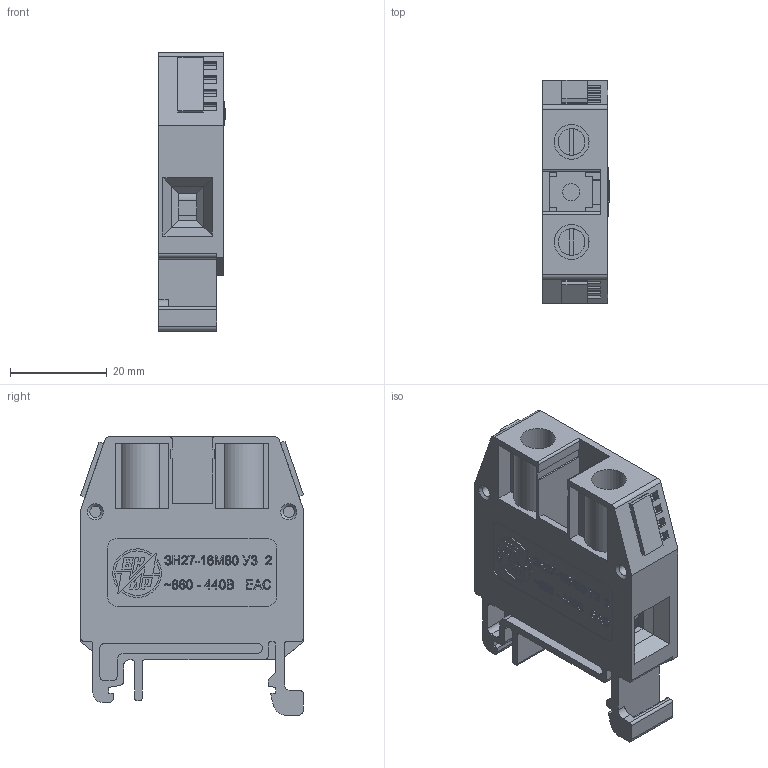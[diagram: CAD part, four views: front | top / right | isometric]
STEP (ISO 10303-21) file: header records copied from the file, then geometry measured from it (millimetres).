
FILE_DESCRIPTION(('STEP AP214'), '1');
FILE_NAME('ÇÍ27-16Ì80 òèï 2 ñ êðûøêîé ÊÒ3', '2023-08-03T06:47:40', (''), (''), 'ASCON STEP Converter 1.6', 'ASCON Math Kernel', '');
FILE_SCHEMA(('AUTOMOTIVE_DESIGN { 1 0 10303 214 3 1 1}'));
Length unit declared in the file: millimetre
Bounding box: 14 x 46.05 x 57.5 mm (x, y, z)
Volume: 16234.4 mm3; surface area: 16043.7 mm2
Topology: 2 solids, 2 shells, 2291 faces, 6593 edges, 4351 vertices
Faces by surface type: plane 1156, cylinder 1131, cone 4
Full cylindrical faces by diameter (mm): 2.34 x2, 3 x2, 3.5 x1, 5.2 x2, 5.5 x2, 7.2 x2
Entity records: 93930 total; most frequent: DIRECTION 13446, CARTESIAN_POINT 13221, ORIENTED_EDGE 13156, EDGE_CURVE 6578, AXIS2_PLACEMENT_3D 4576, VERTEX_POINT 4351, LINE 4294, VECTOR 4294
